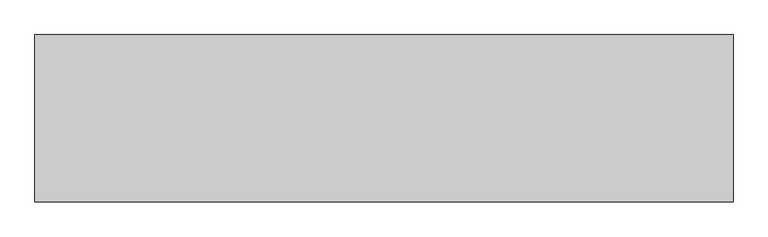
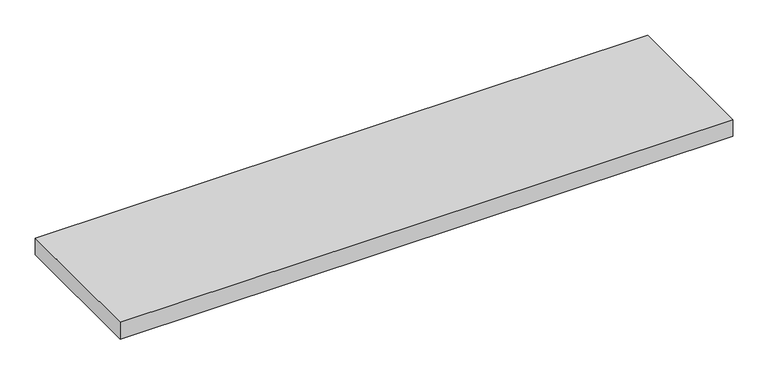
"""IFC4 building model written with IfcOpenShell, lengths in millimetres: proxy geometry, AK_アルミ足場板 AL-1_軽 : AK_アルミ足場板 AL-1_軽."""

from ifc_helpers import new_model, si_unit, origin, origin_with_axes, place, context, project, spatial, polyline, outline, extrude, source, transform, mapped, element, save


def generic_models_94c8d769(model_context):
    return source(origin(), model_context, "Body", "SweptSolid", [
        extrude(outline(polyline([(999.9989902, 240.0), (999.9989902, 0.0157988), (0.0, 0.0157988), (0.0, 240.0), (999.9989902, 240.0)])), origin_with_axes(), (0.0, 0.0, 1.0), 29.0),
    ])


if __name__ == "__main__":
    model = new_model("IFC4")
    model_context = context("Model", 3, world=origin())
    ifc_project = project(units=[si_unit("LENGTHUNIT", "METRE", prefix="MILLI")], contexts=[model_context])
    site = spatial("IfcSite", under=ifc_project)
    building = spatial("IfcBuilding", under=site)
    placement = place(None, origin())
    generic_models_shape = generic_models_94c8d769(model_context)
    element("IfcBuildingElementProxy", 1, Name="AK_アルミ足場板 AL-1_軽 : AK_アルミ足場板 AL-1_軽", ObjectType="AK_アルミ足場板 AL-1_軽 : AK_アルミ足場板 AL-1_軽", at=placement, inside=building, context=model_context, shape_type="MappedRepresentation", body=[
        mapped(generic_models_shape, transform((0.0, 0.0, 0.0), x_axis=(1.0, 0.0, 0.0), y_axis=(0.0, 1.0, 0.0), z_axis=(0.0, 0.0, 1.0))),
    ])
    save(model, "model.ifc")
